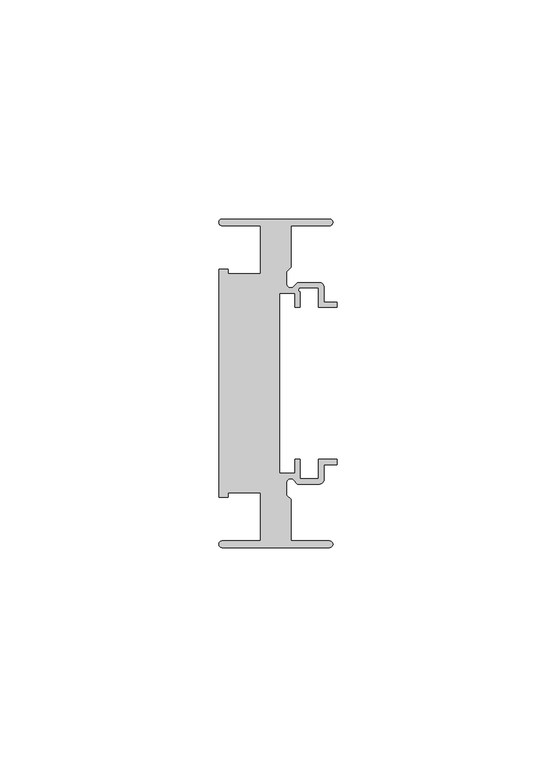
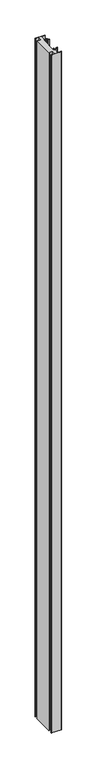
"""IFC4 building model written with IfcOpenShell, lengths in millimetres: member geometry, Прямоугольный импост : 7-AMG-2-Профиль 26Х75 Верх П."""

from ifc_helpers import new_model, si_unit, point, frame, frame_2d, origin, place, context, project, spatial, polyline, circle_curve, trimmed, segment, composite_curve, outline, extrude, source, transform, mapped, element, save


def member_36051e5c(model_context):
    return source(origin(), model_context, "Body", "SweptSolid", [
        extrude(outline(composite_curve([segment(polyline([(-1.7, -37.5), (-26.25, -37.5)]), True, "CONTINUOUS"), segment(trimmed(circle_curve(frame_2d((-26.25, -36.75)), 0.75), [point((-26.25, -37.5))], [point((-26.25, -36.0))], False, "CARTESIAN"), True, "CONTINUOUS"), segment(polyline([(-26.25, -36.0), (-17.5, -36.0), (-17.5, -25.0), (-24.9359877, -25.0), (-24.9359877, -26.0), (-27.0, -26.0), (-27.0, 26.0), (-24.9359877, 26.0), (-24.9359877, 25.0), (-17.5, 25.0), (-17.5, 36.0), (-26.25, 36.0)]), True, "CONTINUOUS"), segment(trimmed(circle_curve(frame_2d((-26.25, 36.75)), 0.75), [point((-26.25, 36.0))], [point((-26.25, 37.5))], False, "CARTESIAN"), True, "CONTINUOUS"), segment(polyline([(-26.25, 37.5), (-1.7, 37.5)]), True, "CONTINUOUS"), segment(trimmed(circle_curve(frame_2d((-1.7, 36.75)), 0.75), [point((-1.7, 37.5))], [point((-1.7, 36.0))], False, "CARTESIAN"), True, "CONTINUOUS"), segment(polyline([(-1.7, 36.0), (-10.5, 36.0), (-10.5, 26.5029437), (-11.5, 25.5029437), (-11.5, 22.6727922)]), True, "CONTINUOUS"), segment(trimmed(circle_curve(frame_2d((-10.6, 22.6727922)), 0.9), [point((-11.5, 22.6727922))], [point((-9.9636039, 22.0363961))], True, "CARTESIAN"), True, "CONTINUOUS"), segment(polyline([(-9.9636039, 22.0363961), (-9.0, 23.0), (-4.0, 23.0)]), True, "CONTINUOUS"), segment(trimmed(circle_curve(frame_2d((-4.0, 22.0)), 1.0), [point((-4.0, 23.0))], [point((-3.0, 22.0))], False, "CARTESIAN"), True, "CONTINUOUS"), segment(polyline([(-3.0, 22.0), (-3.0, 18.55), (0.0, 18.55), (0.0, 17.35), (-4.2, 17.35), (-4.2, 21.8), (-8.5029437, 21.8)]), True, "CONTINUOUS"), segment(trimmed(circle_curve(frame_2d((-8.3343131, 21.3314262)), 0.4979937), [point((-8.5029437, 21.8))], [point((-8.45, 20.8470563))], True, "CARTESIAN"), True, "CONTINUOUS"), segment(polyline([(-8.45, 20.8470563), (-8.45, 17.35), (-9.65, 17.35), (-9.65, 20.55), (-13.15, 20.55), (-13.15, -20.55), (-9.65, -20.55), (-9.65, -17.35), (-8.45, -17.35), (-8.45, -21.8), (-4.2, -21.8), (-4.2, -17.35), (0.0, -17.35), (0.0, -18.55), (-3.0, -18.55), (-3.0, -22.0)]), True, "CONTINUOUS"), segment(trimmed(circle_curve(frame_2d((-4.0, -22.0)), 1.0), [point((-3.0, -22.0))], [point((-4.0, -23.0))], False, "CARTESIAN"), True, "CONTINUOUS"), segment(polyline([(-4.0, -23.0), (-9.0, -23.0), (-9.9636039, -22.0363961)]), True, "CONTINUOUS"), segment(trimmed(circle_curve(frame_2d((-10.6, -22.6727922)), 0.9), [point((-9.9636039, -22.0363961))], [point((-11.5, -22.6727922))], True, "CARTESIAN"), True, "CONTINUOUS"), segment(polyline([(-11.5, -22.6727922), (-11.5, -25.5029437), (-10.5, -26.5029437), (-10.5, -36.0), (-1.7, -36.0)]), True, "CONTINUOUS"), segment(trimmed(circle_curve(frame_2d((-1.7, -36.75)), 0.75), [point((-1.7, -36.0))], [point((-1.7, -37.5))], False, "CARTESIAN"), True, "CONTINUOUS")], self_intersect=False)), frame((0.0, 0.0, -1848.0), z_axis=(0.0, 0.0, 1.0), x_axis=(1.0, 0.0, 0.0)), (0.0, 0.0, 1.0), 1848.0),
    ])


if __name__ == "__main__":
    model = new_model("IFC4")
    model_context = context("Model", 3, world=origin())
    ifc_project = project(units=[si_unit("LENGTHUNIT", "METRE", prefix="MILLI")], contexts=[model_context])
    site = spatial("IfcSite", under=ifc_project)
    building = spatial("IfcBuilding", under=site)
    placement = place(None, origin())
    member_shape = member_36051e5c(model_context)
    element("IfcMember", 1, ObjectType="Прямоугольный импост : 7-AMG-2-Профиль 26Х75 Верх П", at=placement, inside=building, context=model_context, shape_type="MappedRepresentation", body=[
        mapped(member_shape, transform((0.0, 0.0, 0.0), x_axis=(1.0, 0.0, 0.0), y_axis=(0.0, 1.0, 0.0), z_axis=(0.0, 0.0, 1.0))),
    ])
    save(model, "model.ifc")
